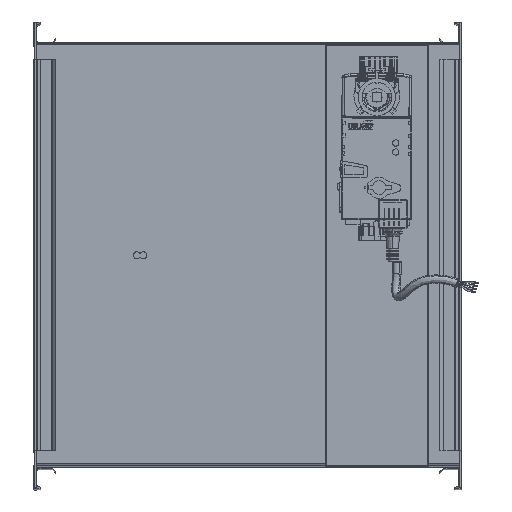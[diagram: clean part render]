
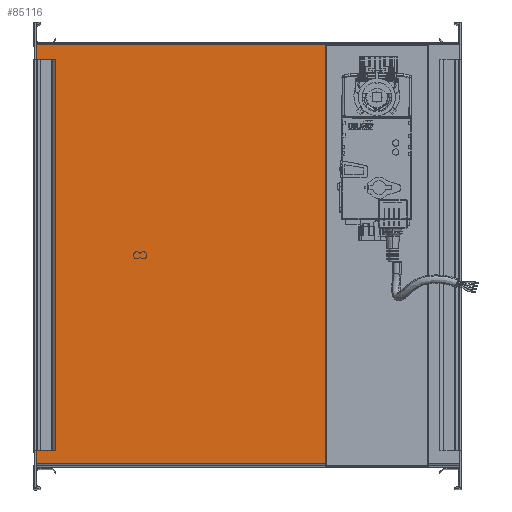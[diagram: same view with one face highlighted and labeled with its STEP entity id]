
A CAD part, top view. The second image highlights one B-rep face of the part: STEP entity #85116.
In plain terms, the highlighted planar face has unit normal (0, 0, 1).
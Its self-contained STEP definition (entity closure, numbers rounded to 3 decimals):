
#1366 = VECTOR ( 'NONE', #7260, 1000. ) ;
#2135 = EDGE_LOOP ( 'NONE', ( #74111, #12386, #67338, #21119 ) ) ;
#5953 = VERTEX_POINT ( 'NONE', #6357 ) ;
#6357 = CARTESIAN_POINT ( 'NONE',  ( -244.423, -183.848, 1500. ) ) ;
#7260 = DIRECTION ( 'NONE',  ( 1., 0., 0. ) ) ;
#8319 = CARTESIAN_POINT ( 'NONE',  ( 28.646, -183.848, 1500. ) ) ;
#9529 = LINE ( 'NONE', #17953, #61026 ) ;
#11797 = DIRECTION ( 'NONE',  ( 1., 0., 0. ) ) ;
#12386 = ORIENTED_EDGE ( 'NONE', *, *, #91797, .F. ) ;
#13579 = LINE ( 'NONE', #49786, #77474 ) ;
#13838 = CARTESIAN_POINT ( 'NONE',  ( -244.423, 212.152, 1500. ) ) ;
#17953 = CARTESIAN_POINT ( 'NONE',  ( -244.423, -183.848, 1500. ) ) ;
#18917 = FACE_OUTER_BOUND ( 'NONE', #2135, .T. ) ;
#21119 = ORIENTED_EDGE ( 'NONE', *, *, #49971, .T. ) ;
#21551 = VECTOR ( 'NONE', #11797, 1000. ) ;
#28637 = VERTEX_POINT ( 'NONE', #8319 ) ;
#37594 = CARTESIAN_POINT ( 'NONE',  ( -244.423, 212.152, 1500. ) ) ;
#38526 = CARTESIAN_POINT ( 'NONE',  ( 28.646, 212.152, 1500. ) ) ;
#49786 = CARTESIAN_POINT ( 'NONE',  ( 28.646, -186.848, 1500. ) ) ;
#49971 = EDGE_CURVE ( 'NONE', #82462, #5953, #9529, .T. ) ;
#52790 = PLANE ( 'NONE',  #54499 ) ;
#53259 = DIRECTION ( 'NONE',  ( 0., -1., 0. ) ) ;
#54499 = AXIS2_PLACEMENT_3D ( 'NONE', #61231, #81456, #53259 ) ;
#54566 = CARTESIAN_POINT ( 'NONE',  ( -244.423, -183.848, 1500. ) ) ;
#56794 = EDGE_CURVE ( 'NONE', #82462, #82697, #86182, .T. ) ;
#61026 = VECTOR ( 'NONE', #89357, 1000. ) ;
#61231 = CARTESIAN_POINT ( 'NONE',  ( -244.423, -183.848, 1500. ) ) ;
#65595 = EDGE_CURVE ( 'NONE', #5953, #28637, #83230, .T. ) ;
#67338 = ORIENTED_EDGE ( 'NONE', *, *, #56794, .F. ) ;
#74111 = ORIENTED_EDGE ( 'NONE', *, *, #65595, .T. ) ;
#77474 = VECTOR ( 'NONE', #92494, 1000. ) ;
#81456 = DIRECTION ( 'NONE',  ( 0., 0., 1. ) ) ;
#82462 = VERTEX_POINT ( 'NONE', #37594 ) ;
#82697 = VERTEX_POINT ( 'NONE', #38526 ) ;
#83230 = LINE ( 'NONE', #54566, #21551 ) ;
#85116 = ADVANCED_FACE ( 'NONE', ( #18917 ), #52790, .T. ) ;
#86182 = LINE ( 'NONE', #13838, #1366 ) ;
#89357 = DIRECTION ( 'NONE',  ( 0., -1., 0. ) ) ;
#91797 = EDGE_CURVE ( 'NONE', #82697, #28637, #13579, .T. ) ;
#92494 = DIRECTION ( 'NONE',  ( 0., -1., 0. ) ) ;
